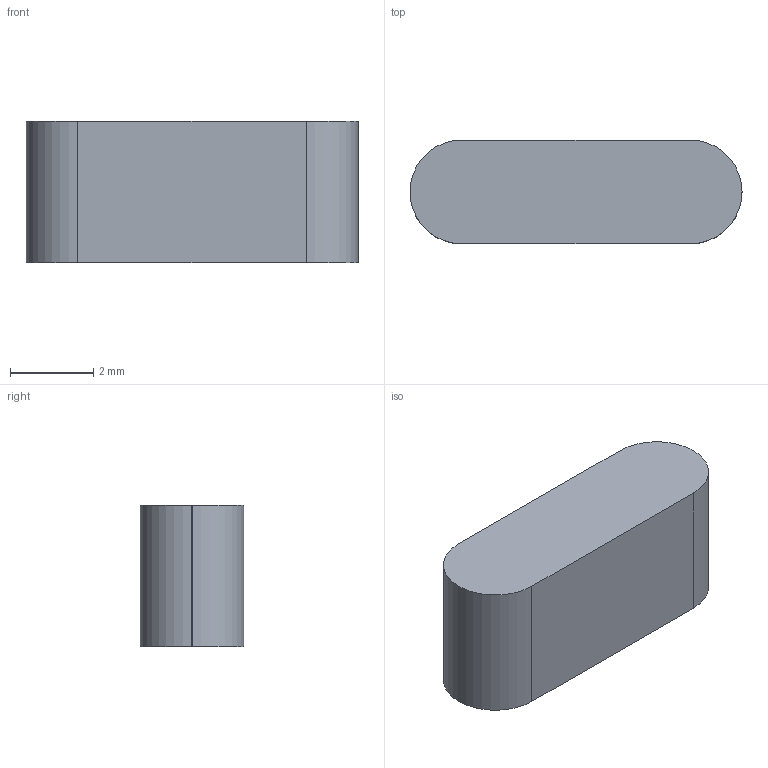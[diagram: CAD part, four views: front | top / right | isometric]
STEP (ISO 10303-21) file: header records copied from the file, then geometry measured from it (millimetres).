
FILE_DESCRIPTION(('Open CASCADE Model'),'2;1');
FILE_NAME('Open CASCADE Shape Model','2026-09-08T11:26:26',('Author'),( 'Open CASCADE'),'Open CASCADE STEP processor 7.8','build123d', 'Unknown');
FILE_SCHEMA(('AUTOMOTIVE_DESIGN { 1 0 10303 214 1 1 1 1 }'));
Length unit declared in the file: millimetre
Products named in the file (1): SOLID
Bounding box: 8 x 2.5 x 3.4 mm (x, y, z)
Volume: 63.4 mm3; surface area: 101.4 mm2
Topology: 1 solids, 1 shells, 10 faces, 24 edges, 16 vertices
Faces by surface type: plane 6, cylinder 4
Entity records: 618 total; most frequent: DIRECTION 102, CARTESIAN_POINT 99, LINE 56, VECTOR 56, ORIENTED_EDGE 48, PCURVE 48, DEFINITIONAL_REPRESENTATION 48, EDGE_CURVE 24
